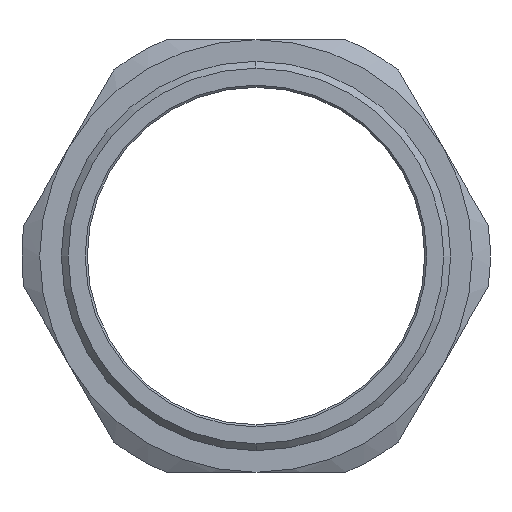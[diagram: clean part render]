
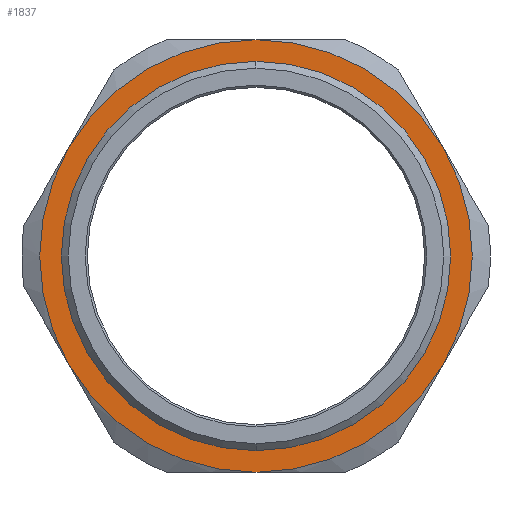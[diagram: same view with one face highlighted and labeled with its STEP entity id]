
A CAD part, left-side view. The second image highlights one B-rep face of the part: STEP entity #1837.
In plain terms, the highlighted planar face has unit normal (-1, 0, 0).
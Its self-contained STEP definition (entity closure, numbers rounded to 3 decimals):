
#197 = CIRCLE ( 'NONE', #571, 50. ) ;
#210 = CIRCLE ( 'NONE', #563, 44.55 ) ;
#290 = CIRCLE ( 'NONE', #521, 50. ) ;
#293 = CIRCLE ( 'NONE', #522, 50. ) ;
#327 = CIRCLE ( 'NONE', #506, 50. ) ;
#336 = CIRCLE ( 'NONE', #508, 44.55 ) ;
#338 = CIRCLE ( 'NONE', #507, 50. ) ;
#339 = CIRCLE ( 'NONE', #505, 50. ) ;
#366 = EDGE_CURVE ( 'NONE', #1514, #1512, #197, .T. ) ;
#378 = EDGE_CURVE ( 'NONE', #1562, #1543, #210, .T. ) ;
#447 = AXIS2_PLACEMENT_3D ( 'NONE', #787, #789, #778 ) ;
#505 = AXIS2_PLACEMENT_3D ( 'NONE', #1120, #1119, #1118 ) ;
#506 = AXIS2_PLACEMENT_3D ( 'NONE', #1124, #1123, #1122 ) ;
#507 = AXIS2_PLACEMENT_3D ( 'NONE', #1127, #1126, #1125 ) ;
#508 = AXIS2_PLACEMENT_3D ( 'NONE', #1132, #1131, #1128 ) ;
#521 = AXIS2_PLACEMENT_3D ( 'NONE', #1251, #1250, #1248 ) ;
#522 = AXIS2_PLACEMENT_3D ( 'NONE', #1255, #1254, #1253 ) ;
#563 = AXIS2_PLACEMENT_3D ( 'NONE', #1216, #1215, #1225 ) ;
#571 = AXIS2_PLACEMENT_3D ( 'NONE', #1444, #1419, #1391 ) ;
#619 = EDGE_CURVE ( 'NONE', #1522, #1507, #293, .T. ) ;
#620 = EDGE_CURVE ( 'NONE', #1512, #1519, #290, .T. ) ;
#648 = EDGE_CURVE ( 'NONE', #1543, #1562, #336, .T. ) ;
#649 = EDGE_CURVE ( 'NONE', #1567, #1522, #338, .T. ) ;
#650 = EDGE_CURVE ( 'NONE', #1519, #1567, #327, .T. ) ;
#651 = EDGE_CURVE ( 'NONE', #1507, #1514, #339, .T. ) ;
#730 = FACE_BOUND ( 'NONE', #1633, .T. ) ;
#733 = FACE_OUTER_BOUND ( 'NONE', #1623, .T. ) ;
#778 = DIRECTION ( 'NONE',  ( 0., 0., -1. ) ) ;
#784 = PLANE ( 'NONE',  #447 ) ;
#787 = CARTESIAN_POINT ( 'NONE',  ( -28., 60., 0. ) ) ;
#789 = DIRECTION ( 'NONE',  ( 1., 0., 0. ) ) ;
#1040 = CARTESIAN_POINT ( 'NONE',  ( -28., 0., -50. ) ) ;
#1046 = CARTESIAN_POINT ( 'NONE',  ( -28., 0., 44.55 ) ) ;
#1066 = CARTESIAN_POINT ( 'NONE',  ( -28., 0., -44.55 ) ) ;
#1092 = CARTESIAN_POINT ( 'NONE',  ( -28., 43.301, -25. ) ) ;
#1095 = CARTESIAN_POINT ( 'NONE',  ( -28., -43.301, -25. ) ) ;
#1102 = CARTESIAN_POINT ( 'NONE',  ( -28., 0., 50. ) ) ;
#1103 = CARTESIAN_POINT ( 'NONE',  ( -28., -43.301, 25. ) ) ;
#1110 = CARTESIAN_POINT ( 'NONE',  ( -28., 43.301, 25. ) ) ;
#1118 = DIRECTION ( 'NONE',  ( 0., 0., -1. ) ) ;
#1119 = DIRECTION ( 'NONE',  ( 1., 0., 0. ) ) ;
#1120 = CARTESIAN_POINT ( 'NONE',  ( -28., 0., 0. ) ) ;
#1122 = DIRECTION ( 'NONE',  ( 0., 0., -1. ) ) ;
#1123 = DIRECTION ( 'NONE',  ( 1., 0., 0. ) ) ;
#1124 = CARTESIAN_POINT ( 'NONE',  ( -28., 0., 0. ) ) ;
#1125 = DIRECTION ( 'NONE',  ( 0., 0., -1. ) ) ;
#1126 = DIRECTION ( 'NONE',  ( 1., 0., 0. ) ) ;
#1127 = CARTESIAN_POINT ( 'NONE',  ( -28., 0., 0. ) ) ;
#1128 = DIRECTION ( 'NONE',  ( 0., 0., -1. ) ) ;
#1131 = DIRECTION ( 'NONE',  ( 1., 0., 0. ) ) ;
#1132 = CARTESIAN_POINT ( 'NONE',  ( -28., 0., 0. ) ) ;
#1215 = DIRECTION ( 'NONE',  ( 1., 0., 0. ) ) ;
#1216 = CARTESIAN_POINT ( 'NONE',  ( -28., 0., 0. ) ) ;
#1225 = DIRECTION ( 'NONE',  ( 0., 0., -1. ) ) ;
#1248 = DIRECTION ( 'NONE',  ( 0., 0., -1. ) ) ;
#1250 = DIRECTION ( 'NONE',  ( 1., 0., 0. ) ) ;
#1251 = CARTESIAN_POINT ( 'NONE',  ( -28., 0., 0. ) ) ;
#1253 = DIRECTION ( 'NONE',  ( 0., 0., -1. ) ) ;
#1254 = DIRECTION ( 'NONE',  ( 1., 0., 0. ) ) ;
#1255 = CARTESIAN_POINT ( 'NONE',  ( -28., 0., 0. ) ) ;
#1391 = DIRECTION ( 'NONE',  ( 0., 0., -1. ) ) ;
#1419 = DIRECTION ( 'NONE',  ( 1., 0., 0. ) ) ;
#1444 = CARTESIAN_POINT ( 'NONE',  ( -28., 0., 0. ) ) ;
#1507 = VERTEX_POINT ( 'NONE', #1110 ) ;
#1512 = VERTEX_POINT ( 'NONE', #1103 ) ;
#1514 = VERTEX_POINT ( 'NONE', #1102 ) ;
#1519 = VERTEX_POINT ( 'NONE', #1095 ) ;
#1522 = VERTEX_POINT ( 'NONE', #1092 ) ;
#1543 = VERTEX_POINT ( 'NONE', #1066 ) ;
#1562 = VERTEX_POINT ( 'NONE', #1046 ) ;
#1567 = VERTEX_POINT ( 'NONE', #1040 ) ;
#1623 = EDGE_LOOP ( 'NONE', ( #1714, #1715, #1710, #1717, #1718, #1713 ) ) ;
#1633 = EDGE_LOOP ( 'NONE', ( #1712, #1707 ) ) ;
#1707 = ORIENTED_EDGE ( 'NONE', *, *, #378, .T. ) ;
#1710 = ORIENTED_EDGE ( 'NONE', *, *, #620, .F. ) ;
#1712 = ORIENTED_EDGE ( 'NONE', *, *, #648, .T. ) ;
#1713 = ORIENTED_EDGE ( 'NONE', *, *, #619, .F. ) ;
#1714 = ORIENTED_EDGE ( 'NONE', *, *, #649, .F. ) ;
#1715 = ORIENTED_EDGE ( 'NONE', *, *, #650, .F. ) ;
#1717 = ORIENTED_EDGE ( 'NONE', *, *, #366, .F. ) ;
#1718 = ORIENTED_EDGE ( 'NONE', *, *, #651, .F. ) ;
#1837 = ADVANCED_FACE ( 'NONE', ( #730, #733 ), #784, .F. ) ;
